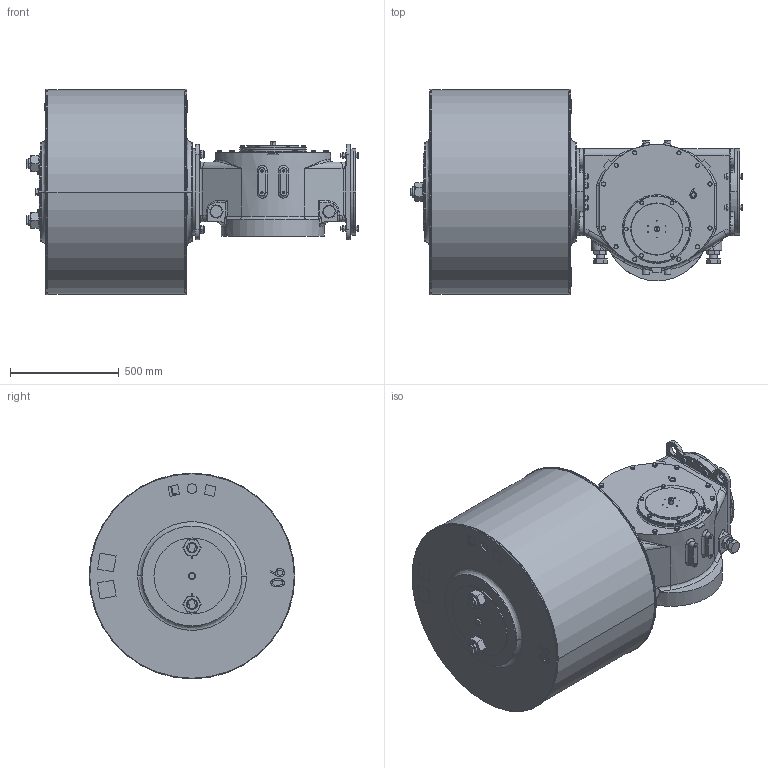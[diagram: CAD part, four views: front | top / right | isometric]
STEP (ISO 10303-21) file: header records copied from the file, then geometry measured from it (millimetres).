
FILE_DESCRIPTION (( 'STEP AP203' ), '1' );
FILE_NAME ('VTS6-900.STEP', '2023-01-01T10:02:52', ( '' ), ( '' ), 'SwSTEP 2.0', 'SolidWorks 2020', '' );
FILE_SCHEMA (( 'CONFIG_CONTROL_DESIGN' ));
Length unit declared in the file: millimetre
Products named in the file (1): VTS6-900
Bounding box: 1528.18 x 947 x 947 mm (x, y, z)
Volume: 577738830.4 mm3; surface area: 6022529.6 mm2
Topology: 3 solids, 6 shells, 1941 faces, 4945 edges, 3134 vertices
Faces by surface type: plane 811, cylinder 588, cone 453, bspline 89
Entity records: 72714 total; most frequent: CARTESIAN_POINT 26732, ORIENTED_EDGE 9786, DIRECTION 9420, EDGE_CURVE 4893, AXIS2_PLACEMENT_3D 3732, VERTEX_POINT 3134, EDGE_LOOP 2205, LINE 1956
